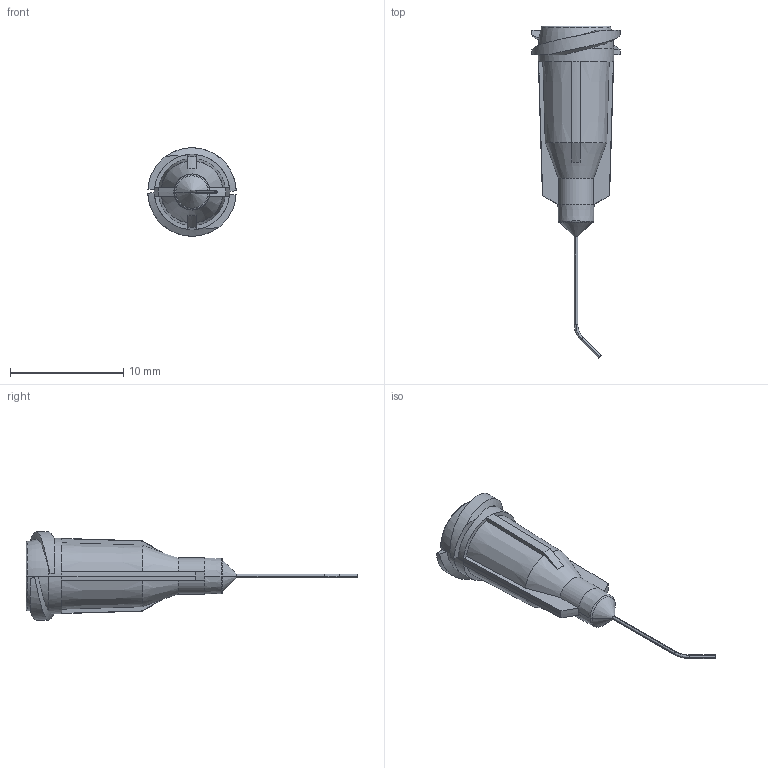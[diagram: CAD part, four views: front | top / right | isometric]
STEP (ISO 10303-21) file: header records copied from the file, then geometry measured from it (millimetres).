
FILE_DESCRIPTION (( 'STEP AP214' ), '1' );
FILE_NAME ('NORDSONEFD-7018426 TIP 30GA GP 006 45D LV.STEP', '2019-02-14T21:51:09', ( '' ), ( '' ), 'SwSTEP 2.0', 'SolidWorks 2019', '' );
FILE_SCHEMA (( 'AUTOMOTIVE_DESIGN' ));
Length unit declared in the file: inch
Products named in the file (1): NORDSONEFD-7018426 TIP 30GA GP 006 45D LV
Bounding box: 7.82 x 29.37 x 7.82 mm (x, y, z)
Volume: 266.1 mm3; surface area: 548.4 mm2
Topology: 1 solids, 1 shells, 127 faces, 292 edges, 170 vertices
Faces by surface type: torus 38, cylinder 30, plane 25, cone 22, bspline 12
Entity records: 4454 total; most frequent: CARTESIAN_POINT 1124, DIRECTION 632, ORIENTED_EDGE 584, EDGE_CURVE 292, AXIS2_PLACEMENT_3D 280, VERTEX_POINT 170, CIRCLE 164, EDGE_LOOP 132
